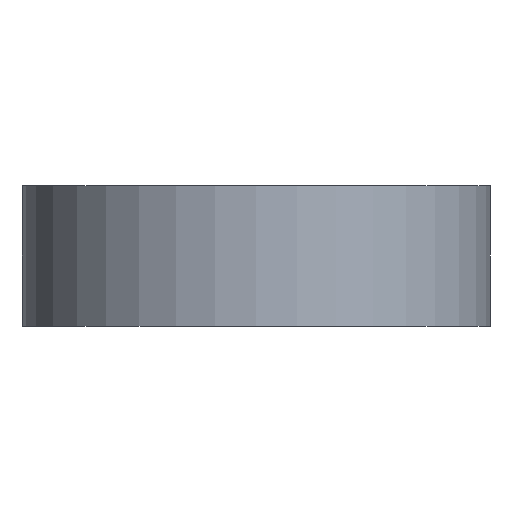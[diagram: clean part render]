
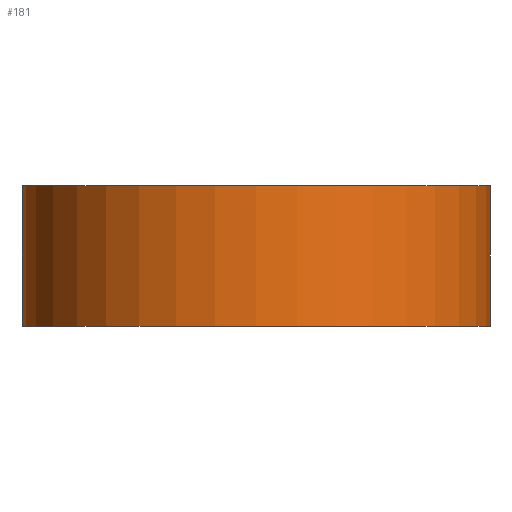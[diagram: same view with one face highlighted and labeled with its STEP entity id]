
A CAD part, left-side view. The second image highlights one B-rep face of the part: STEP entity #181.
In plain terms, the highlighted cylindrical face has radius 5 mm (diameter 10 mm), a partial arc.
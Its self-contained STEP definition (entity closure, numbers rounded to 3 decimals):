
#24=CYLINDRICAL_SURFACE('',#220,5.);
#30=FACE_OUTER_BOUND('',#40,.T.);
#40=EDGE_LOOP('',(#136,#137,#138,#139));
#54=LINE('',#310,#66);
#55=LINE('',#313,#67);
#66=VECTOR('',#260,10.);
#67=VECTOR('',#263,10.);
#80=CIRCLE('',#221,5.);
#81=CIRCLE('',#222,5.);
#90=VERTEX_POINT('',#306);
#91=VERTEX_POINT('',#307);
#92=VERTEX_POINT('',#309);
#93=VERTEX_POINT('',#311);
#108=EDGE_CURVE('',#90,#91,#80,.T.);
#109=EDGE_CURVE('',#91,#92,#54,.T.);
#110=EDGE_CURVE('',#93,#92,#81,.T.);
#111=EDGE_CURVE('',#90,#93,#55,.T.);
#136=ORIENTED_EDGE('',*,*,#108,.T.);
#137=ORIENTED_EDGE('',*,*,#109,.T.);
#138=ORIENTED_EDGE('',*,*,#110,.F.);
#139=ORIENTED_EDGE('',*,*,#111,.F.);
#181=ADVANCED_FACE('',(#30),#24,.T.);
#220=AXIS2_PLACEMENT_3D('',#305,#256,#257);
#221=AXIS2_PLACEMENT_3D('',#308,#258,#259);
#222=AXIS2_PLACEMENT_3D('',#312,#261,#262);
#256=DIRECTION('center_axis',(0.,0.,1.));
#257=DIRECTION('ref_axis',(0.,1.,0.));
#258=DIRECTION('center_axis',(0.,0.,1.));
#259=DIRECTION('ref_axis',(0.,1.,0.));
#260=DIRECTION('',(0.,0.,1.));
#261=DIRECTION('center_axis',(0.,0.,1.));
#262=DIRECTION('ref_axis',(0.,1.,0.));
#263=DIRECTION('',(0.,0.,1.));
#305=CARTESIAN_POINT('Origin',(-19.,0.,0.));
#306=CARTESIAN_POINT('',(-19.,5.,0.));
#307=CARTESIAN_POINT('',(-19.,-5.,0.));
#308=CARTESIAN_POINT('Origin',(-19.,0.,0.));
#309=CARTESIAN_POINT('',(-19.,-5.,3.));
#310=CARTESIAN_POINT('',(-19.,-5.,0.));
#311=CARTESIAN_POINT('',(-19.,5.,3.));
#312=CARTESIAN_POINT('Origin',(-19.,0.,3.));
#313=CARTESIAN_POINT('',(-19.,5.,0.));
